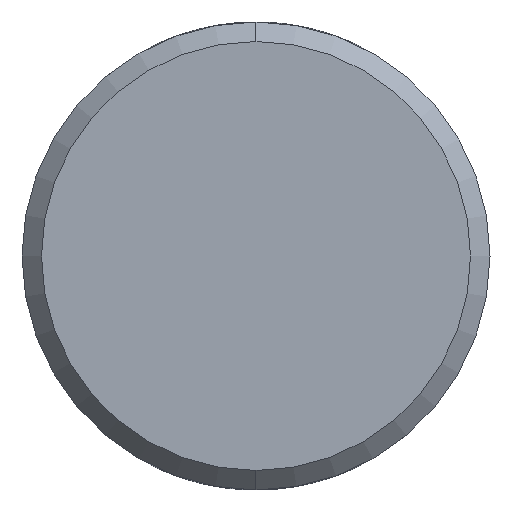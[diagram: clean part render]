
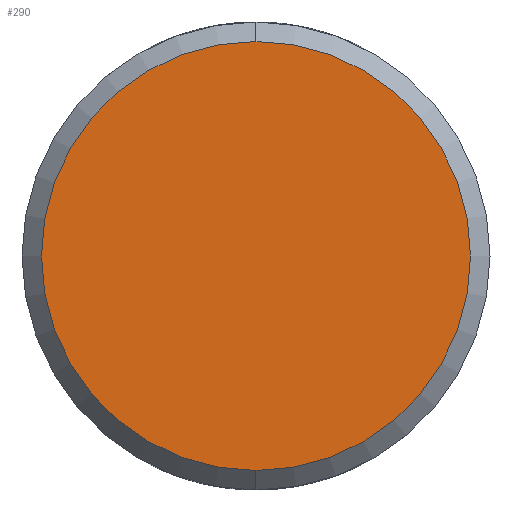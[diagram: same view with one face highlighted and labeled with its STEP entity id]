
A CAD part, left-side view. The second image highlights one B-rep face of the part: STEP entity #290.
In plain terms, the highlighted planar face has unit normal (-1, 0, 0).
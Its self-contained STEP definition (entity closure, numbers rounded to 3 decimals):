
#10 = CARTESIAN_POINT ( 'NONE',  ( -50., 0., 0. ) ) ;
#65 = PLANE ( 'NONE',  #487 ) ;
#140 = CARTESIAN_POINT ( 'NONE',  ( -50., 0., 0. ) ) ;
#153 = EDGE_CURVE ( 'NONE', #961, #403, #379, .T. ) ;
#279 = CARTESIAN_POINT ( 'NONE',  ( -50., 0., 0. ) ) ;
#285 = EDGE_LOOP ( 'NONE', ( #910, #382 ) ) ;
#290 = ADVANCED_FACE ( 'NONE', ( #544 ), #65, .F. ) ;
#377 = DIRECTION ( 'NONE',  ( -1., 0., 0. ) ) ;
#379 = CIRCLE ( 'NONE', #430, 5.5 ) ;
#382 = ORIENTED_EDGE ( 'NONE', *, *, #153, .T. ) ;
#403 = VERTEX_POINT ( 'NONE', #999 ) ;
#430 = AXIS2_PLACEMENT_3D ( 'NONE', #279, #833, #600 ) ;
#487 = AXIS2_PLACEMENT_3D ( 'NONE', #140, #692, #607 ) ;
#493 = EDGE_CURVE ( 'NONE', #403, #961, #873, .T. ) ;
#527 = DIRECTION ( 'NONE',  ( 0., 0., -1. ) ) ;
#544 = FACE_OUTER_BOUND ( 'NONE', #285, .T. ) ;
#600 = DIRECTION ( 'NONE',  ( 0., 0., -1. ) ) ;
#607 = DIRECTION ( 'NONE',  ( 0., 0., -1. ) ) ;
#692 = DIRECTION ( 'NONE',  ( 1., 0., 0. ) ) ;
#811 = CARTESIAN_POINT ( 'NONE',  ( -50., 0., 5.5 ) ) ;
#816 = AXIS2_PLACEMENT_3D ( 'NONE', #10, #377, #527 ) ;
#833 = DIRECTION ( 'NONE',  ( -1., 0., 0. ) ) ;
#873 = CIRCLE ( 'NONE', #816, 5.5 ) ;
#910 = ORIENTED_EDGE ( 'NONE', *, *, #493, .T. ) ;
#961 = VERTEX_POINT ( 'NONE', #811 ) ;
#999 = CARTESIAN_POINT ( 'NONE',  ( -50., 0., -5.5 ) ) ;
